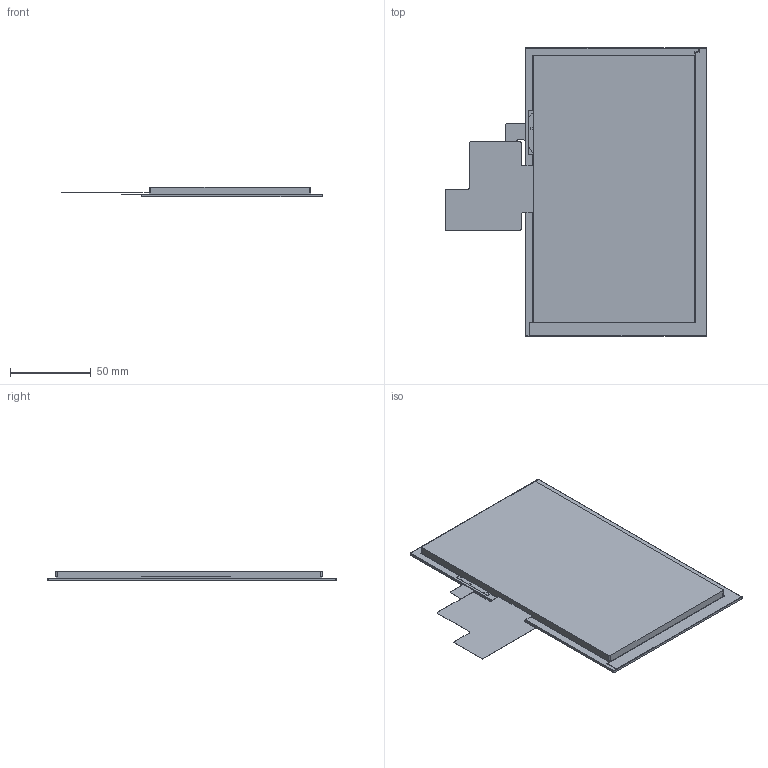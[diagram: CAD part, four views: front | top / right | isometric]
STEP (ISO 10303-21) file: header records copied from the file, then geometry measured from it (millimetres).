
FILE_DESCRIPTION((''),'2;1');
FILE_NAME('DMG10600F070_01WTCZ02','2022-04-24T',('Administrator'),(''),'PRO/ENGINEER BY PARAMETRIC TECHNOLOGY CORPORATION, 2011310','PRO/ENGINEER BY PARAMETRIC TECHNOLOGY CORPORATION, 2011310','');
FILE_SCHEMA(('CONFIG_CONTROL_DESIGN','SHAPE_APPEARANCE_LAYERS_GROUPS'));
Length unit declared in the file: millimetre
Products named in the file (1): DMG10600F070_01WTCZ02
Bounding box: 161.89 x 178.73 x 5.95 mm (x, y, z)
Volume: 101180 mm3; surface area: 75223.7 mm2
Topology: 1 solids, 2 shells, 101 faces, 282 edges, 188 vertices
Faces by surface type: plane 78, cylinder 23
Entity records: 3403 total; most frequent: CARTESIAN_POINT 573, ORIENTED_EDGE 564, DIRECTION 528, EDGE_CURVE 282, VECTOR 234, LINE 234, VERTEX_POINT 188, AXIS2_PLACEMENT_3D 147
